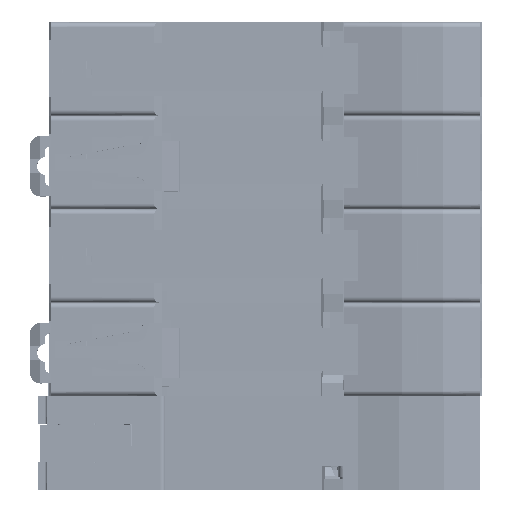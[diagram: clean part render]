
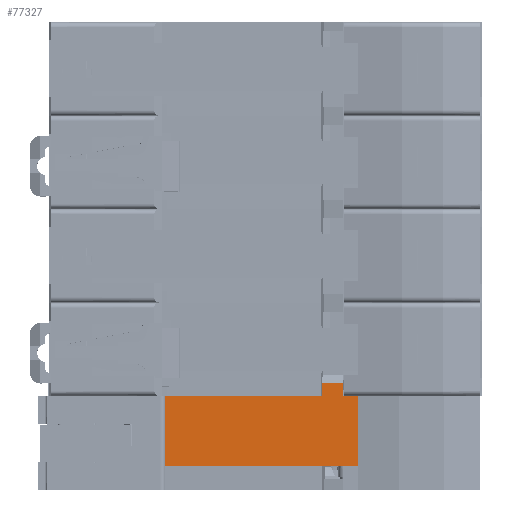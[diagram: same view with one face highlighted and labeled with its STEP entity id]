
A CAD part, front view. The second image highlights one B-rep face of the part: STEP entity #77327.
In plain terms, the highlighted planar face has unit normal (0, -1, 0) as drawn and (0, 1, 0) by its records, which use the part's own axes.
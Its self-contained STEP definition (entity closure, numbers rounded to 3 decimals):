
#1263 = CARTESIAN_POINT ( 'NONE',  ( 19.201, 27., 0. ) ) ;
#2799 = CARTESIAN_POINT ( 'NONE',  ( -14.25, 27., 13.1 ) ) ;
#3176 = VERTEX_POINT ( 'NONE', #31688 ) ;
#8265 = EDGE_CURVE ( 'NONE', #26455, #3176, #153821, .T. ) ;
#9057 = CARTESIAN_POINT ( 'NONE',  ( -14.25, 27., 0. ) ) ;
#13884 = DIRECTION ( 'NONE',  ( 0., 0., -1. ) ) ;
#13998 = CARTESIAN_POINT ( 'NONE',  ( 19.201, 27., 0. ) ) ;
#17429 = ORIENTED_EDGE ( 'NONE', *, *, #67325, .T. ) ;
#17474 = EDGE_LOOP ( 'NONE', ( #150229, #78660, #63717, #111226, #72271, #17429, #188693, #48601, #197195, #79273 ) ) ;
#22236 = VERTEX_POINT ( 'NONE', #55325 ) ;
#26455 = VERTEX_POINT ( 'NONE', #57771 ) ;
#27898 = DIRECTION ( 'NONE',  ( 0., 0., 1. ) ) ;
#31463 = DIRECTION ( 'NONE',  ( 0., 0., -1. ) ) ;
#31688 = CARTESIAN_POINT ( 'NONE',  ( 22., 27., 8.9 ) ) ;
#32871 = EDGE_CURVE ( 'NONE', #52009, #26455, #198457, .T. ) ;
#38241 = VECTOR ( 'NONE', #27898, 1000. ) ;
#38503 = CARTESIAN_POINT ( 'NONE',  ( -14.25, 27., 0. ) ) ;
#40506 = CARTESIAN_POINT ( 'NONE',  ( -14.25, 27., 0. ) ) ;
#41098 = EDGE_CURVE ( 'NONE', #66459, #147758, #96972, .T. ) ;
#44629 = CARTESIAN_POINT ( 'NONE',  ( 22., 27., 0. ) ) ;
#48601 = ORIENTED_EDGE ( 'NONE', *, *, #32871, .T. ) ;
#50467 = DIRECTION ( 'NONE',  ( -1., 0., 0. ) ) ;
#51712 = LINE ( 'NONE', #1263, #170781 ) ;
#52009 = VERTEX_POINT ( 'NONE', #197072 ) ;
#53414 = LINE ( 'NONE', #40506, #180118 ) ;
#55325 = CARTESIAN_POINT ( 'NONE',  ( 15.138, 27., 0. ) ) ;
#57771 = CARTESIAN_POINT ( 'NONE',  ( 22., 27., 13.1 ) ) ;
#63717 = ORIENTED_EDGE ( 'NONE', *, *, #209939, .T. ) ;
#64136 = VERTEX_POINT ( 'NONE', #38503 ) ;
#64555 = LINE ( 'NONE', #164362, #165267 ) ;
#66459 = VERTEX_POINT ( 'NONE', #44629 ) ;
#67325 = EDGE_CURVE ( 'NONE', #64136, #145767, #53414, .T. ) ;
#68209 = CARTESIAN_POINT ( 'NONE',  ( -14.25, 27., 0. ) ) ;
#71058 = DIRECTION ( 'NONE',  ( 0., 0., 1. ) ) ;
#72271 = ORIENTED_EDGE ( 'NONE', *, *, #101940, .T. ) ;
#77327 = ADVANCED_FACE ( 'NONE', ( #164789 ), #149796, .T. ) ;
#78603 = EDGE_CURVE ( 'NONE', #145767, #52009, #89384, .T. ) ;
#78660 = ORIENTED_EDGE ( 'NONE', *, *, #183431, .T. ) ;
#79273 = ORIENTED_EDGE ( 'NONE', *, *, #87727, .T. ) ;
#80791 = VERTEX_POINT ( 'NONE', #92133 ) ;
#86668 = DIRECTION ( 'NONE',  ( -1., 0., 0. ) ) ;
#87727 = EDGE_CURVE ( 'NONE', #3176, #66459, #64555, .T. ) ;
#89384 = LINE ( 'NONE', #9057, #172080 ) ;
#89701 = DIRECTION ( 'NONE',  ( 0., 0., 1. ) ) ;
#89788 = CARTESIAN_POINT ( 'NONE',  ( 15.138, 27., -2.5 ) ) ;
#92133 = CARTESIAN_POINT ( 'NONE',  ( 19.201, 27., -2.5 ) ) ;
#95777 = CARTESIAN_POINT ( 'NONE',  ( 15.138, 27., 0. ) ) ;
#96972 = LINE ( 'NONE', #149936, #104900 ) ;
#97458 = EDGE_CURVE ( 'NONE', #100423, #22236, #152047, .T. ) ;
#98163 = DIRECTION ( 'NONE',  ( 0., 0., -1. ) ) ;
#100423 = VERTEX_POINT ( 'NONE', #89788 ) ;
#101940 = EDGE_CURVE ( 'NONE', #22236, #64136, #177436, .T. ) ;
#104744 = VECTOR ( 'NONE', #13884, 1000. ) ;
#104900 = VECTOR ( 'NONE', #200587, 1000. ) ;
#111226 = ORIENTED_EDGE ( 'NONE', *, *, #97458, .T. ) ;
#124758 = DIRECTION ( 'NONE',  ( 0., 0., 1. ) ) ;
#127279 = AXIS2_PLACEMENT_3D ( 'NONE', #68209, #167139, #71058 ) ;
#137871 = CARTESIAN_POINT ( 'NONE',  ( 6.996, 27., 0. ) ) ;
#145394 = CARTESIAN_POINT ( 'NONE',  ( 22., 27., 0. ) ) ;
#145767 = VERTEX_POINT ( 'NONE', #175650 ) ;
#147758 = VERTEX_POINT ( 'NONE', #13998 ) ;
#149796 = PLANE ( 'NONE',  #127279 ) ;
#149936 = CARTESIAN_POINT ( 'NONE',  ( 6.996, 27., 0. ) ) ;
#150229 = ORIENTED_EDGE ( 'NONE', *, *, #41098, .T. ) ;
#152047 = LINE ( 'NONE', #95777, #38241 ) ;
#153821 = LINE ( 'NONE', #145394, #104744 ) ;
#164362 = CARTESIAN_POINT ( 'NONE',  ( 22., 27., 0. ) ) ;
#164789 = FACE_OUTER_BOUND ( 'NONE', #17474, .T. ) ;
#165267 = VECTOR ( 'NONE', #31463, 1000. ) ;
#166055 = CARTESIAN_POINT ( 'NONE',  ( -14.25, 27., -2.5 ) ) ;
#167139 = DIRECTION ( 'NONE',  ( 0., 1., 0. ) ) ;
#168283 = DIRECTION ( 'NONE',  ( 1., 0., 0. ) ) ;
#169783 = VECTOR ( 'NONE', #86668, 1000. ) ;
#170781 = VECTOR ( 'NONE', #98163, 1000. ) ;
#172080 = VECTOR ( 'NONE', #124758, 1000. ) ;
#175650 = CARTESIAN_POINT ( 'NONE',  ( -14.25, 27., 8.9 ) ) ;
#177436 = LINE ( 'NONE', #137871, #169783 ) ;
#180118 = VECTOR ( 'NONE', #89701, 1000. ) ;
#183431 = EDGE_CURVE ( 'NONE', #147758, #80791, #51712, .T. ) ;
#188693 = ORIENTED_EDGE ( 'NONE', *, *, #78603, .T. ) ;
#197072 = CARTESIAN_POINT ( 'NONE',  ( -14.25, 27., 13.1 ) ) ;
#197195 = ORIENTED_EDGE ( 'NONE', *, *, #8265, .T. ) ;
#198457 = LINE ( 'NONE', #2799, #200774 ) ;
#200587 = DIRECTION ( 'NONE',  ( -1., 0., 0. ) ) ;
#200774 = VECTOR ( 'NONE', #168283, 1000. ) ;
#203569 = LINE ( 'NONE', #166055, #206035 ) ;
#206035 = VECTOR ( 'NONE', #50467, 1000. ) ;
#209939 = EDGE_CURVE ( 'NONE', #80791, #100423, #203569, .T. ) ;
